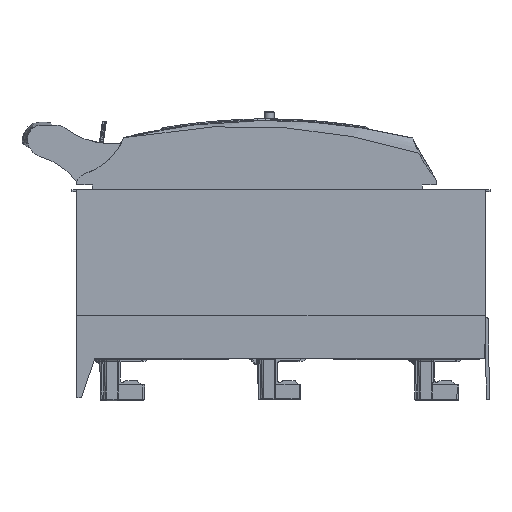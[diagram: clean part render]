
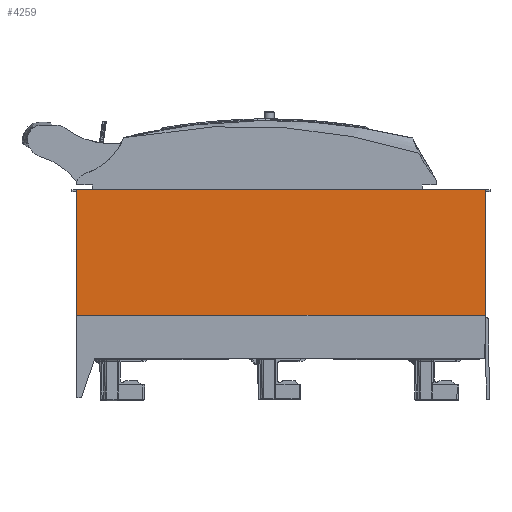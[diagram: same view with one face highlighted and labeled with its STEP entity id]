
A CAD part, front view. The second image highlights one B-rep face of the part: STEP entity #4259.
In plain terms, the highlighted planar face has unit normal (0, -1, 0).
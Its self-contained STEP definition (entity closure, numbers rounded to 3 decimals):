
#2420=FACE_OUTER_BOUND('',#7386,.T.);
#4259=ADVANCED_FACE('',(#2420),#6148,.F.);
#6148=PLANE('',#33981);
#7386=EDGE_LOOP('',(#11494,#11495,#11496,#11497));
#11494=ORIENTED_EDGE('',*,*,#23978,.T.);
#11495=ORIENTED_EDGE('',*,*,#24613,.F.);
#11496=ORIENTED_EDGE('',*,*,#24522,.F.);
#11497=ORIENTED_EDGE('',*,*,#24576,.T.);
#20761=VERTEX_POINT('',#46569);
#20762=VERTEX_POINT('',#46571);
#21294=VERTEX_POINT('',#48475);
#21305=VERTEX_POINT('',#48496);
#23978=EDGE_CURVE('',#20762,#20761,#28982,.T.);
#24522=EDGE_CURVE('',#21305,#21294,#29034,.T.);
#24576=EDGE_CURVE('',#21305,#20762,#29086,.T.);
#24613=EDGE_CURVE('',#21294,#20761,#29113,.T.);
#28982=LINE('',#46570,#31246);
#29034=LINE('',#48497,#31298);
#29086=LINE('',#48610,#31350);
#29113=LINE('',#48676,#31377);
#31246=VECTOR('',#37139,1.);
#31298=VECTOR('',#37953,1.);
#31350=VECTOR('',#38031,1.);
#31377=VECTOR('',#38080,1.);
#33981=AXIS2_PLACEMENT_3D('',#48863,#38219,#38220);
#37139=DIRECTION('',(1.,0.,0.));
#37953=DIRECTION('',(1.,0.,0.));
#38031=DIRECTION('',(0.,0.,-1.));
#38080=DIRECTION('',(0.,0.,-1.));
#38219=DIRECTION('',(0.,1.,0.));
#38220=DIRECTION('',(0.,0.,-1.));
#46569=CARTESIAN_POINT('',(129.927,-104.,0.324));
#46570=CARTESIAN_POINT('',(129.927,-104.,0.324));
#46571=CARTESIAN_POINT('',(-130.073,-104.,0.324));
#48475=CARTESIAN_POINT('',(129.927,-104.,80.324));
#48496=CARTESIAN_POINT('',(-130.073,-104.,80.324));
#48497=CARTESIAN_POINT('',(129.927,-104.,80.324));
#48610=CARTESIAN_POINT('',(-130.073,-104.,80.324));
#48676=CARTESIAN_POINT('',(129.927,-104.,80.324));
#48863=CARTESIAN_POINT('',(129.927,-104.,80.324));
